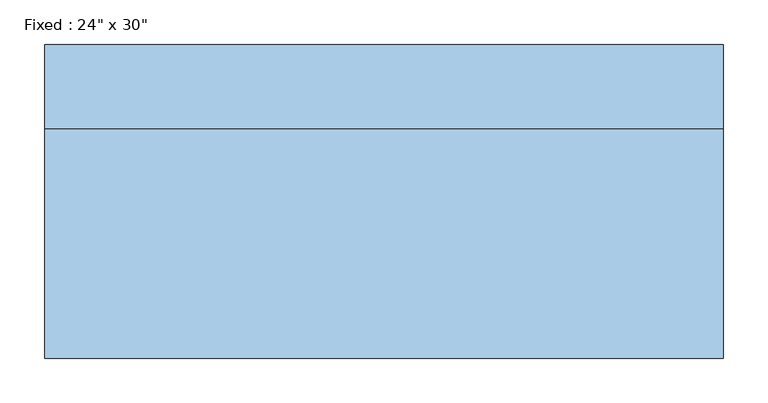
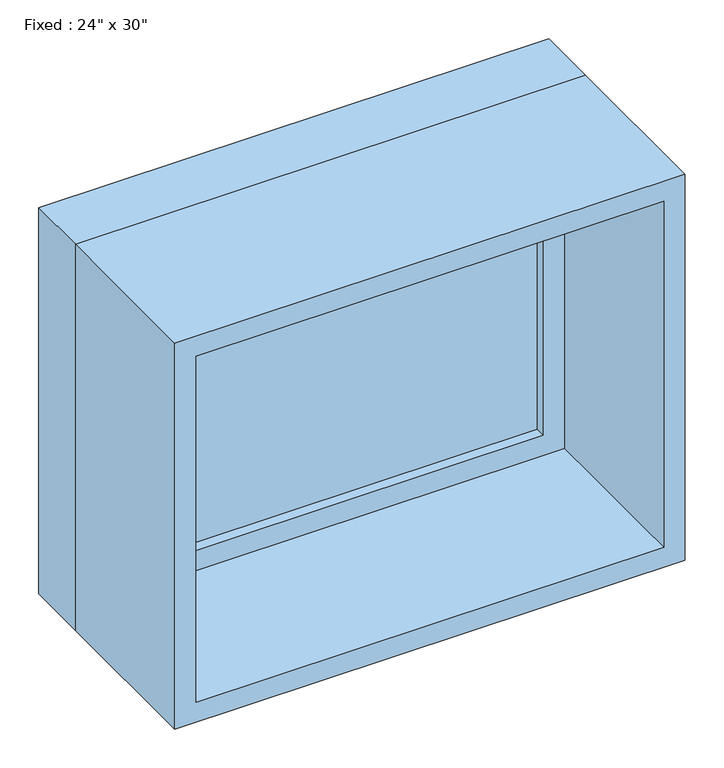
"""IFC4 building model written with IfcOpenShell, lengths in millimetres: window geometry."""

import ifcopenshell
import ifcopenshell.guid

model = None  # the IFC model being written
_history = None  # IfcOwnerHistory: only IFC2X3 demands one
_inside = {}  # id of a spatial element -> (the spatial element, [elements in it])
_under = {}  # id of a project, library or spatial element -> (it, [spatial elements below it])
_declared = {}  # id of a project -> (the project, [libraries it declares])
_typed = {}  # id of a type object -> (the type object, [elements of that type])
_made_of = {}  # id of a material, layer set ... -> (it, [elements and type objects made of it])


def new_model(schema):
    """Start an empty IFC model of exactly this schema.

    Asked for "IFC4X3", IfcOpenShell would pick the latest addendum, in which some entities
    have other attributes; the version numbers below select the first issue.
    IFC2X3 requires an IfcOwnerHistory on every rooted entity: one is made here for all.
    """
    global model, _history
    if schema == "IFC4X3":
        model = ifcopenshell.file(schema_version=(4, 3, 0, 0))
    else:
        model = ifcopenshell.file(schema=schema)
    _inside.clear()
    _under.clear()
    _declared.clear()
    _typed.clear()
    _made_of.clear()
    _history = None
    if model.schema == "IFC2X3":
        org = make("IfcOrganization", Name="unknown")
        user = make(
            "IfcPersonAndOrganization",
            ThePerson=make("IfcPerson", FamilyName="unknown"),
            TheOrganization=org,
        )
        app = make(
            "IfcApplication",
            ApplicationDeveloper=org,
            Version="unknown",
            ApplicationFullName="unknown",
            ApplicationIdentifier="unknown",
        )
        _history = make(
            "IfcOwnerHistory",
            OwningUser=user,
            OwningApplication=app,
            ChangeAction="ADDED",
            CreationDate=0,
        )
    return model


def make(cls, **values):
    """One entity of the class cls with the attributes given. An attribute that is None is left unset."""
    return model.create_entity(
        cls, **{name: value for name, value in values.items() if value is not None}
    )


def rooted(cls, **values):
    """An entity with a GlobalId (a new one), such as an element, a storey or a relation."""
    return make(cls, GlobalId=ifcopenshell.guid.new(), OwnerHistory=_history, **values)


def si_unit(unit_type, name, prefix=None):
    """IfcSIUnit, for example si_unit("LENGTHUNIT", "METRE", prefix="MILLI")."""
    return make("IfcSIUnit", UnitType=unit_type, Prefix=prefix, Name=name)


def assignment(units):
    """IfcUnitAssignment: the units of a project."""
    return None if units is None else make("IfcUnitAssignment", Units=units)


def point(xyz):
    """IfcCartesianPoint."""
    return None if xyz is None else make("IfcCartesianPoint", Coordinates=xyz)


def direction(xyz):
    """IfcDirection."""
    return None if xyz is None else make("IfcDirection", DirectionRatios=xyz)


def frame(location, z_axis=None, x_axis=None):
    """IfcAxis2Placement3D, a coordinate frame: its origin and axes. An axis left out is left unset."""
    return make(
        "IfcAxis2Placement3D",
        Location=point(location),
        Axis=direction(z_axis),
        RefDirection=direction(x_axis),
    )


def origin():
    """The frame at (0, 0, 0) with its axes left unset."""
    return frame((0.0, 0.0, 0.0))


def place(relative_to, where):
    """IfcLocalPlacement: puts the frame where relative to a parent placement (None: the world)."""
    return make(
        "IfcLocalPlacement", PlacementRelTo=relative_to, RelativePlacement=where
    )


def context(
    kind, dimensions, precision=None, world=None, true_north=None, identifier=None
):
    """IfcGeometricRepresentationContext, for example the 3D "Model" context."""
    return make(
        "IfcGeometricRepresentationContext",
        ContextIdentifier=identifier,
        ContextType=kind,
        CoordinateSpaceDimension=dimensions,
        Precision=precision,
        WorldCoordinateSystem=world,
        TrueNorth=true_north,
    )


def project(units=None, contexts=None):
    """IfcProject with its units and contexts."""
    return rooted(
        "IfcProject",
        Name="project",
        RepresentationContexts=contexts,
        UnitsInContext=assignment(units),
    )


def spatial(cls, under=None, at=None, **own):
    """A site, building, storey or space (cls), placed at a placement, below another one or the project."""
    s = rooted(cls, ObjectPlacement=at, **own)
    if under is not None:
        _under.setdefault(under.id(), (under, []))[1].append(s)
    return s


def polyline(points):
    """IfcPolyline through the points."""
    return make("IfcPolyline", Points=[point(p) for p in points])


def outline(outer, holes=None, kind="AREA"):
    """IfcArbitraryClosedProfileDef: a profile drawn as a closed curve; with holes, ...WithVoids."""
    if holes is None:
        return make("IfcArbitraryClosedProfileDef", ProfileType=kind, OuterCurve=outer)
    return make(
        "IfcArbitraryProfileDefWithVoids",
        ProfileType=kind,
        OuterCurve=outer,
        InnerCurves=holes,
    )


def extrude(swept, where, along, depth):
    """IfcExtrudedAreaSolid: the profile swept, set in the frame where, extruded along a direction by depth."""
    return make(
        "IfcExtrudedAreaSolid",
        SweptArea=swept,
        Position=where,
        ExtrudedDirection=direction(along),
        Depth=depth,
    )


def shape(context_of_items, identifier, shape_type, items):
    """IfcShapeRepresentation: the items that make up one representation, for example the "Body"."""
    return make(
        "IfcShapeRepresentation",
        ContextOfItems=context_of_items,
        RepresentationIdentifier=identifier,
        RepresentationType=shape_type,
        Items=items,
    )


def source(mapping_origin, context_of_items, identifier, shape_type, items):
    """IfcRepresentationMap: a shape defined once, which mapped items show again and again."""
    return make(
        "IfcRepresentationMap",
        MappingOrigin=mapping_origin,
        MappedRepresentation=shape(context_of_items, identifier, shape_type, items),
    )


def transform(
    local_origin,
    x_axis=None,
    y_axis=None,
    z_axis=None,
    scale=None,
    scale2=None,
    scale3=None,
    uniform=True,
):
    """IfcCartesianTransformationOperator3D, or its non-uniform kind. x_axis, y_axis, z_axis: its Axis1, 2, 3."""
    if uniform:
        return make(
            "IfcCartesianTransformationOperator3D",
            Axis1=direction(x_axis),
            Axis2=direction(y_axis),
            LocalOrigin=point(local_origin),
            Scale=scale,
            Axis3=direction(z_axis),
        )
    return make(
        "IfcCartesianTransformationOperator3DnonUniform",
        Axis1=direction(x_axis),
        Axis2=direction(y_axis),
        LocalOrigin=point(local_origin),
        Scale=scale,
        Axis3=direction(z_axis),
        Scale2=scale2,
        Scale3=scale3,
    )


def mapped(mapping_source, mapping_target):
    """IfcMappedItem: shows the shape of a source again, moved by a transform."""
    return make(
        "IfcMappedItem", MappingSource=mapping_source, MappingTarget=mapping_target
    )


def made_of(thing, what):
    """Note that an element or type object is made of a material, layer set ...; save() writes the relation."""
    if what is not None:
        _made_of.setdefault(what.id(), (what, []))[1].append(thing)
    return thing


def element(
    cls,
    number,
    at=None,
    inside=None,
    cuts=None,
    type_object=None,
    material=None,
    context=None,
    identifier="Body",
    shape_type=None,
    held_by="IfcProductDefinitionShape",
    body=None,
    shapes=None,
    **own,
):
    """One element of the class cls, such as IfcWall. Its Tag is "e" and its number.

    at: its placement. inside: the storey or other place that contains it. cuts: it is an
    opening in that element (IfcRelVoidsElement). A single representation is given by context,
    identifier, shape_type and body (its items); several are given by shapes. held_by: the class
    of the entity that holds the representations. save() writes the other relations.
    """
    e = rooted(cls, Tag="e%d" % number, ObjectPlacement=at, **own)
    if body is not None:
        shapes = [shape(context, identifier, shape_type, body)]
    if shapes is not None:
        e.Representation = make(held_by, Representations=shapes)
    if inside is not None:
        _inside.setdefault(inside.id(), (inside, []))[1].append(e)
    if cuts is not None:
        rooted(
            "IfcRelVoidsElement", RelatingBuildingElement=cuts, RelatedOpeningElement=e
        )
    if type_object is not None:
        _typed.setdefault(type_object.id(), (type_object, []))[1].append(e)
    return made_of(e, material)


def aggregate(whole, parts):
    """IfcRelAggregates: a whole, such as a stair, and the parts it consists of."""
    return rooted("IfcRelAggregates", RelatingObject=whole, RelatedObjects=parts)


def save(model, path):
    """Write the relations noted so far, then the file.

    IfcRelAggregates (storeys below a building ...), IfcRelContainedInSpatialStructure (elements
    in a storey), IfcRelDefinesByType, IfcRelAssociatesMaterial and IfcRelDeclares: one each for
    every whole, place, type object, material and project.
    """
    for whole, parts in _under.values():
        aggregate(whole, parts)
    for where, things in _inside.values():
        rooted(
            "IfcRelContainedInSpatialStructure",
            RelatedElements=things,
            RelatingStructure=where,
        )
    for kind, things in _typed.values():
        rooted("IfcRelDefinesByType", RelatedObjects=things, RelatingType=kind)
    for what, things in _made_of.values():
        rooted("IfcRelAssociatesMaterial", RelatedObjects=things, RelatingMaterial=what)
    for by, libraries in _declared.values():
        rooted("IfcRelDeclares", RelatingContext=by, RelatedDefinitions=libraries)
    model.write(path)


def window_b6feeaa8(model_context):
    return source(origin(), model_context, "Body", "SweptSolid", [
        extrude(outline(polyline([(279.4, 96.8375), (-355.6, 96.8375), (-355.6, 109.5375), (279.4, 109.5375), (279.4, 96.8375)])), frame((0.0, 0.0, 977.9), z_axis=(0.0, 0.0, 1.0), x_axis=(1.0, 0.0, 0.0)), (0.0, 0.0, 1.0), 482.6),
        extrude(outline(polyline([(1504.95, -400.05), (933.45, -400.05), (933.45, 323.85), (1504.95, 323.85), (1504.95, -400.05)]), holes=[polyline([(1460.5, -355.6), (1460.5, 279.4), (977.9, 279.4), (977.9, -355.6), (1460.5, -355.6)])]), frame((0.0, 80.9625, 0.0), z_axis=(0.0, 1.0, 0.0), x_axis=(0.0, 0.0, 1.0)), (0.0, 0.0, 1.0), 44.45),
        extrude(outline(polyline([(1524.0, -419.1), (914.4, -419.1), (914.4, 342.9), (1524.0, 342.9), (1524.0, -419.1)]), holes=[polyline([(1492.25, -387.35), (1492.25, 311.15), (946.15, 311.15), (946.15, -387.35), (1492.25, -387.35)])]), frame((0.0, -176.2125, 0.0), z_axis=(0.0, 1.0, 0.0), x_axis=(0.0, 0.0, 1.0)), (0.0, 0.0, 1.0), 257.175),
        extrude(outline(polyline([(1524.0, 342.9), (1524.0, -419.1), (914.4, -419.1), (914.4, 342.9), (1524.0, 342.9)]), holes=[polyline([(1504.95, 323.85), (933.45, 323.85), (933.45, -400.05), (1504.95, -400.05), (1504.95, 323.85)])]), frame((0.0, 80.9625, 0.0), z_axis=(0.0, 1.0, 0.0), x_axis=(0.0, 0.0, 1.0)), (0.0, 0.0, 1.0), 95.25),
    ])


if __name__ == "__main__":
    model = new_model("IFC4")
    model_context = context("Model", 3, world=origin())
    ifc_project = project(units=[si_unit("LENGTHUNIT", "METRE", prefix="MILLI")], contexts=[model_context])
    site = spatial("IfcSite", under=ifc_project)
    building = spatial("IfcBuilding", under=site)
    placement = place(None, origin())
    window_shape = window_b6feeaa8(model_context)
    element("IfcWindow", 1, ObjectType="Fixed : 24\" x 30\"", at=placement, inside=building, context=model_context, shape_type="MappedRepresentation", body=[
        mapped(window_shape, transform((0.0, 0.0, 0.0), x_axis=(1.0, 0.0, 0.0), y_axis=(0.0, 1.0, 0.0), z_axis=(0.0, 0.0, 1.0))),
    ])
    save(model, "model.ifc")
